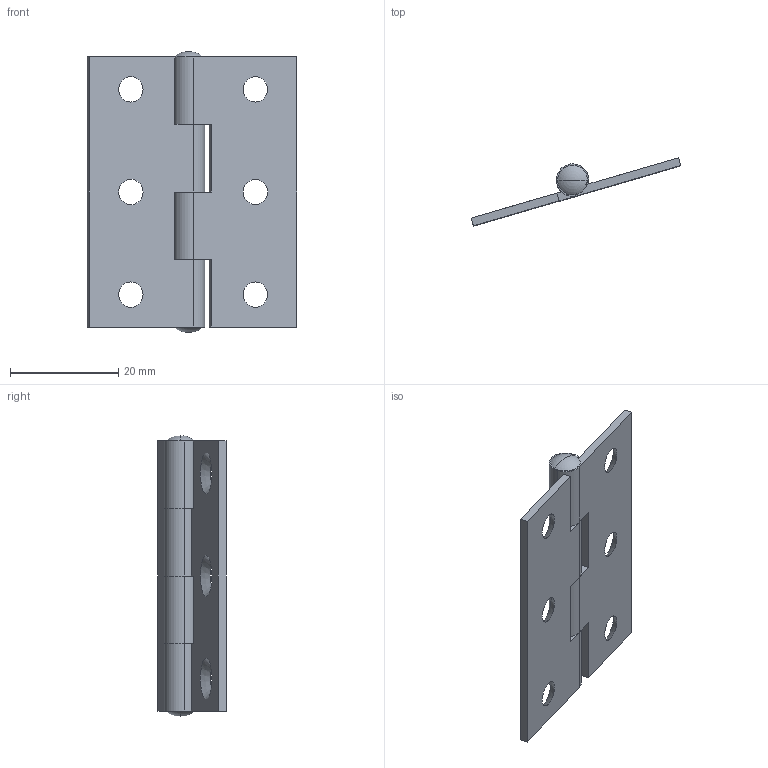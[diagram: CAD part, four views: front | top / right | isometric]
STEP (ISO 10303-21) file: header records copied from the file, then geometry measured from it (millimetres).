
FILE_DESCRIPTION (( 'STEP AP214' ), '1' );
FILE_NAME ('3.ST48.001.STEP', '2010-02-18T17:19:20', ( '£ukaszC' ), ( '' ), 'SwSTEP 2.0', 'SolidWorks 2008', '' );
FILE_SCHEMA (( 'AUTOMOTIVE_DESIGN' ));
Length unit declared in the file: millimetre
Products named in the file (3): ST48; ST48 sworzeñ; 3.ST48.001
Assembly tree (3 placements, depth 2):
  3.ST48.001
    ST48  x2
    ST48 sworzeñ
Bounding box: 38.83 x 12.6 x 52 mm (x, y, z)
Volume: 3710.7 mm3; surface area: 5815.8 mm2
Topology: 3 solids, 3 shells, 76 faces, 194 edges, 122 vertices
Faces by surface type: plane 34, cylinder 26, cone 12, torus 4
Entity records: 1354 total; most frequent: DIRECTION 246, CARTESIAN_POINT 216, ORIENTED_EDGE 204, EDGE_CURVE 102, AXIS2_PLACEMENT_3D 96, VERTEX_POINT 66, VECTOR 54, LINE 54
